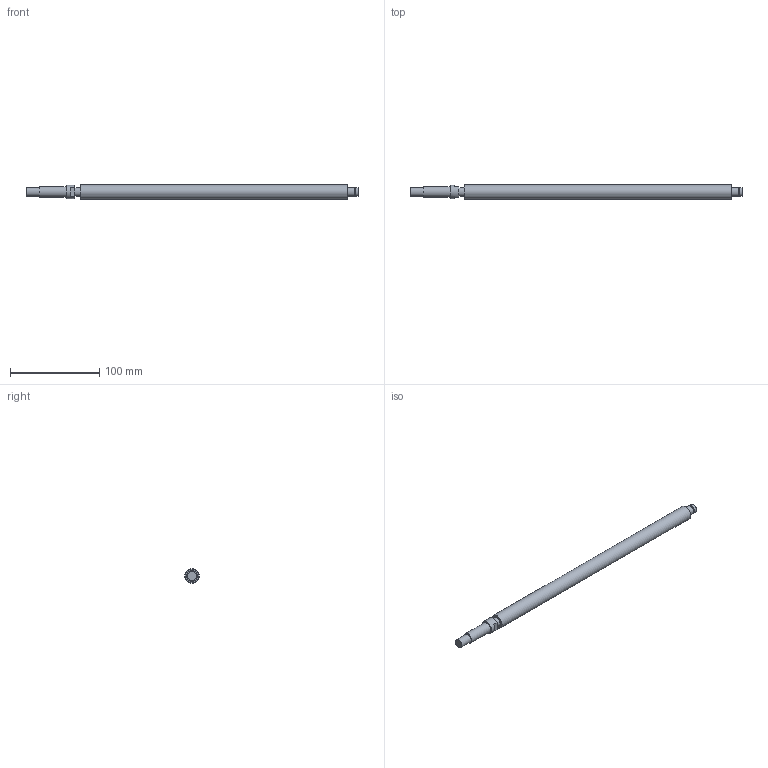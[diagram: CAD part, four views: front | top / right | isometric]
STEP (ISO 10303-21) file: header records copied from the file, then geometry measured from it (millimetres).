
FILE_DESCRIPTION((''),'2;1');
FILE_NAME('D:\製品 (図面)\カタログ用3D\ネジ関連\STEP形式\JK\JK16.stp','2010-06-11T10:54:00',('Tsuchiya'),(''),'Autodesk Inventor 10','Autodesk Inventor 10','');
FILE_SCHEMA(('AUTOMOTIVE_DESIGN { 1 0 10303 214 1 1 1 1 }'));
Length unit declared in the file: millimetre
Products named in the file (1): JK16
Bounding box: 373 x 16 x 16 mm (x, y, z)
Volume: 67971.4 mm3; surface area: 18321.4 mm2
Topology: 1 solids, 1 shells, 21 faces, 36 edges, 24 vertices
Faces by surface type: plane 13, cylinder 8
Full cylindrical faces by diameter (mm): 9.6 x1, 10 x4, 12 x1, 15 x1, 16 x1
Entity records: 483 total; most frequent: DIRECTION 90, CARTESIAN_POINT 72, ORIENTED_EDGE 54, AXIS2_PLACEMENT_3D 41, EDGE_LOOP 36, EDGE_CURVE 27, VERTEX_POINT 23, FACE_OUTER_BOUND 21
